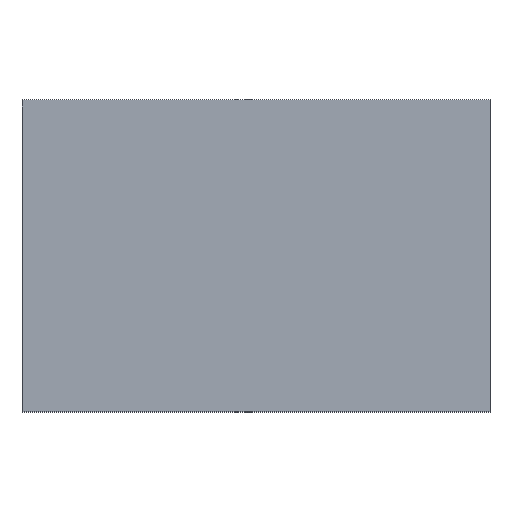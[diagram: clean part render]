
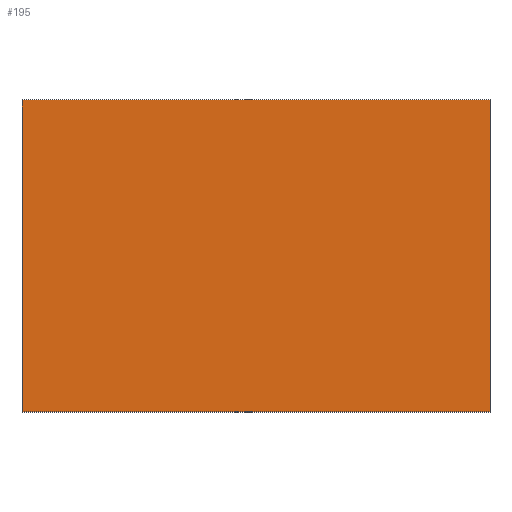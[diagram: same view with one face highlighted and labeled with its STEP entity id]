
A CAD part, top view. The second image highlights one B-rep face of the part: STEP entity #195.
In plain terms, the highlighted planar face has unit normal (0, 0, 1).
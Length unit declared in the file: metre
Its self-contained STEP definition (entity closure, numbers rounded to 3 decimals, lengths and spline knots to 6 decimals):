
#48=ORIENTED_EDGE('',*,*,#66,.F.);
#49=ORIENTED_EDGE('',*,*,#81,.F.);
#50=ORIENTED_EDGE('',*,*,#70,.T.);
#51=ORIENTED_EDGE('',*,*,#82,.T.);
#66=EDGE_CURVE('',#90,#91,#106,.T.);
#70=EDGE_CURVE('',#95,#94,#110,.T.);
#81=EDGE_CURVE('',#95,#90,#121,.T.);
#82=EDGE_CURVE('',#94,#91,#122,.T.);
#90=VERTEX_POINT('',#342);
#91=VERTEX_POINT('',#344);
#94=VERTEX_POINT('',#351);
#95=VERTEX_POINT('',#353);
#106=LINE('',#343,#130);
#110=LINE('',#352,#134);
#121=LINE('',#373,#145);
#122=LINE('',#375,#146);
#130=VECTOR('',#292,1.);
#134=VECTOR('',#298,1.);
#145=VECTOR('',#319,1.);
#146=VECTOR('',#322,1.);
#155=EDGE_LOOP('',(#48,#49,#50,#51));
#165=FACE_BOUND('',#155,.T.);
#175=PLANE('',#279);
#195=ADVANCED_FACE('',(#165),#175,.T.);
#279=AXIS2_PLACEMENT_3D('',#374,#320,#321);
#292=DIRECTION('',(0.,1.,0.));
#298=DIRECTION('',(0.,1.,0.));
#319=DIRECTION('',(-1.,0.,0.));
#320=DIRECTION('',(0.,0.,1.));
#321=DIRECTION('',(0.,1.,0.));
#322=DIRECTION('',(-1.,0.,0.));
#342=CARTESIAN_POINT('',(-0.091028,-0.011022,0.0079));
#343=CARTESIAN_POINT('',(-0.091028,-0.011022,0.0079));
#344=CARTESIAN_POINT('',(-0.091028,-0.010422,0.0079));
#351=CARTESIAN_POINT('',(-0.090128,-0.010422,0.0079));
#352=CARTESIAN_POINT('',(-0.090128,-0.011022,0.0079));
#353=CARTESIAN_POINT('',(-0.090128,-0.011022,0.0079));
#373=CARTESIAN_POINT('',(-0.090128,-0.011022,0.0079));
#374=CARTESIAN_POINT('',(-0.090128,-0.011022,0.0079));
#375=CARTESIAN_POINT('',(-0.090128,-0.010422,0.0079));
